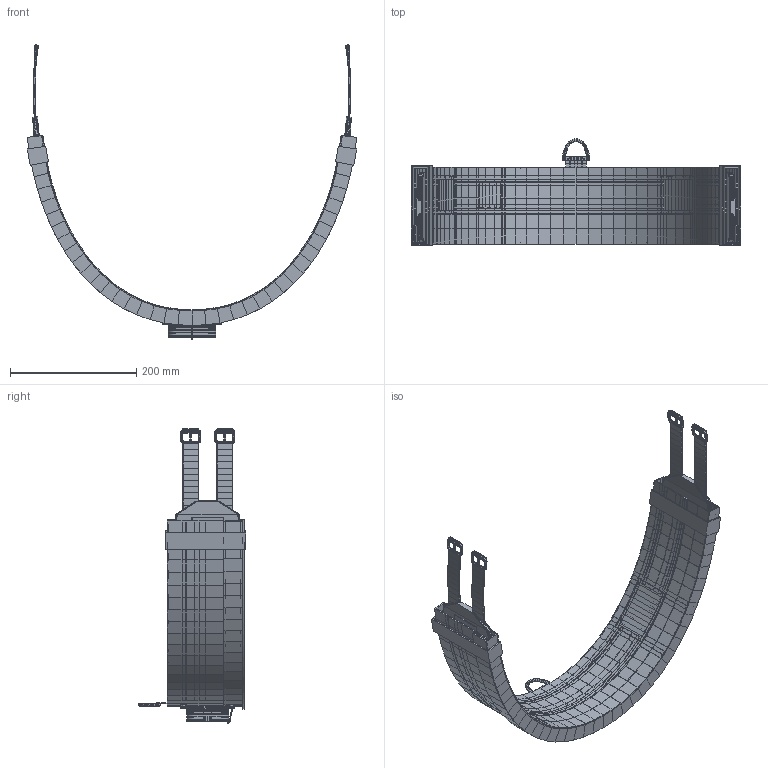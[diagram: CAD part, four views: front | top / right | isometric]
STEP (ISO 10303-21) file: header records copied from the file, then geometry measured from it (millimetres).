
FILE_DESCRIPTION(('AVO Performance Horse - montaje de la cincha (B-rep poliedrico)'),'2;1');
FILE_NAME('AVO_CINCHA_MONTAJE_CURVADO','2026-11-15T12:00:00',('AVO Performance Horse'),('AVO Performance Horse'),'avo_cad.py','avo_cad.py (numpy)','');
FILE_SCHEMA(('AUTOMOTIVE_DESIGN { 1 0 10303 214 1 1 1 1 }'));
Length unit declared in the file: millimetre
Products named in the file (9): Soporte_impreso; Soporte_compra; Capsula_impresa; Capsula_electronica; Electrodos; Funda; Cables; Cincha; AVO_CINCHA_MONTAJE_CURVADO
Assembly tree (8 placements, depth 2):
  AVO_CINCHA_MONTAJE_CURVADO
    Soporte_impreso
    Soporte_compra
    Capsula_impresa
    Capsula_electronica
    Electrodos
    Funda
    Cables
    Cincha
Bounding box: 522.26 x 169.7 x 466.93 mm (x, y, z)
Volume: 1614424.8 mm3; surface area: 1267762.2 mm2
Topology: 220 solids, 220 shells, 28833 faces, 58481 edges, 30158 vertices
Faces by surface type: plane 28833
Entity records: 537415 total; most frequent: ORIENTED_EDGE 117242, VECTOR 58621, LINE 58621, EDGE_CURVE 58621, DIRECTION 38098, VERTEX_POINT 30306, CARTESIAN_POINT 30166, EDGE_LOOP 29067
